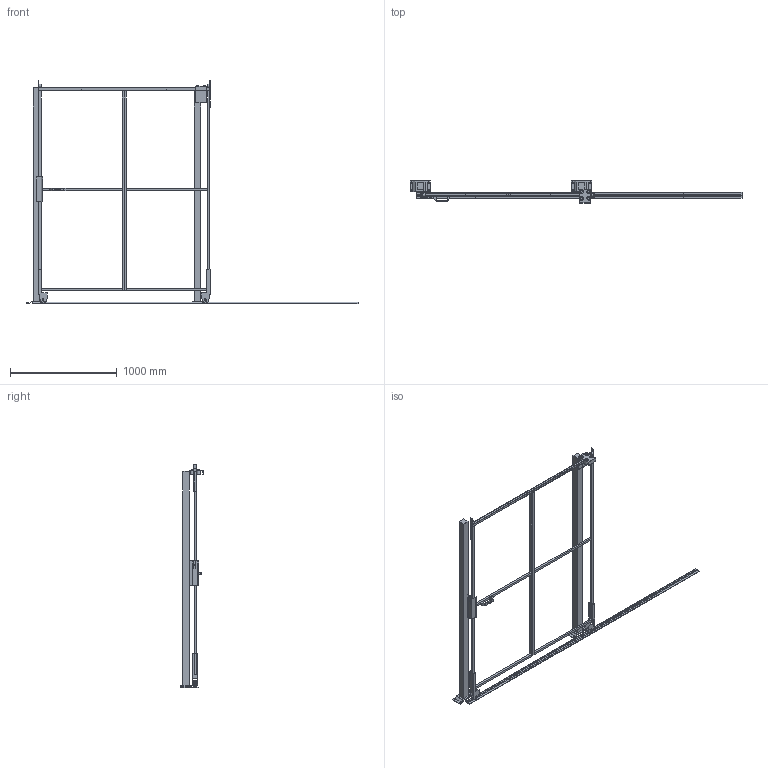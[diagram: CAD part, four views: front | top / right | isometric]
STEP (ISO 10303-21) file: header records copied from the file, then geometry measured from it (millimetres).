
FILE_DESCRIPTION(/* description */ (''),/* implementation_level */ '2;1');
FILE_NAME(/* name */ 'C:\SafeGuarding\ELABORATI\Drawing5_2025-04-02-10-26-25.stp',/* time_stamp */ '2025-04-02T10:26:26+02:00',/* author */ ('admin'),/* organization */ (''),/* preprocessor_version */ 'ST-DEVELOPER v18.1',/* originating_system */ 'AutoCAD Mechanical',/* authorisation */ '');
FILE_SCHEMA (('AUTOMOTIVE_DESIGN { 1 0 10303 214 3 1 1 }'));
Length unit declared in the file: millimetre
Products named in the file (3): Product; R_VFPA.REPE20.08001900; P_VFMA.V260SDU.2020
Assembly tree (4 placements, depth 2):
  Product
    R_VFPA.REPE20.08001900  x2
    P_VFMA.V260SDU.2020  x2
Bounding box: 3111.45 x 210 x 2090 mm (x, y, z)
Volume: 21814082.1 mm3; surface area: 3448520.1 mm2
Topology: 40 solids, 51 shells, 387 faces, 1207 edges, 1193 vertices
Faces by surface type: plane 341, cylinder 40, cone 4, sphere 2
Full cylindrical faces by diameter (mm): 9 x4, 11 x8, 13 x4, 18 x4, 30 x2, 36 x4, 58 x4
Entity records: 11366 total; most frequent: CARTESIAN_POINT 2399, DIRECTION 1740, ORIENTED_EDGE 1622, EDGE_CURVE 860, LINE 768, VECTOR 768, VERTEX_POINT 614, AXIS2_PLACEMENT_3D 486
